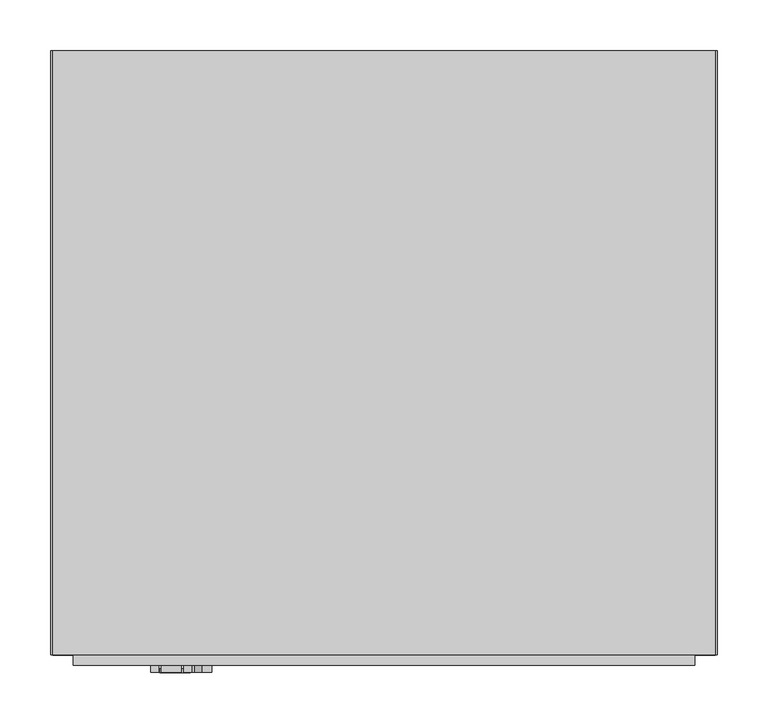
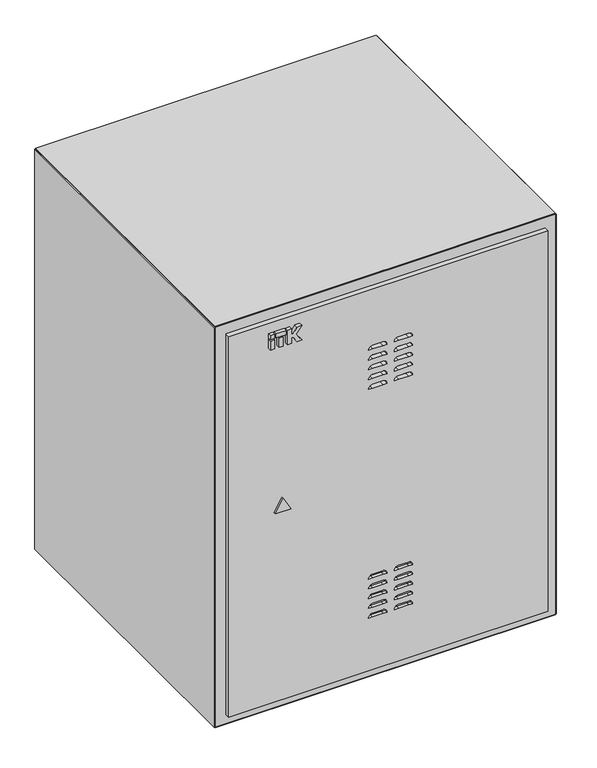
"""IFC4 building model written with IfcOpenShell, lengths in millimetres: proxy geometry, Шкафы ITK серия O_навесной : LO35-12U66-M55."""

from ifc_helpers import new_model, si_unit, frame, origin, origin_with_axes, place, context, project, spatial, polyline, circle_curve, outline, extrude, source, transform, mapped, element, save
from ifc_brep_helpers import plane_surface, revolved_surface, advanced_brep


def electrical_fixtures_9127867a(model_context):
    return source(origin(), model_context, "Body", "SolidModel", [
        extrude(outline(polyline([(-220.9746193, -313.5), (-229.197592, -313.5), (-229.197592, -306.5), (-220.9746193, -306.5), (-220.9746193, -313.5)])), frame((0.0, 0.0, 738.0), z_axis=(0.0, 0.0, 1.0), x_axis=(1.0, 0.0, 0.0)), (0.0, 0.0, 1.0), 18.8087618),
        extrude(outline(polyline([(-204.9605777, -313.5), (-212.7053315, -313.5), (-212.7053315, -306.5), (-204.9605777, -306.5), (-204.9605777, -313.5)])), frame((0.0, 0.0, 738.0), z_axis=(0.0, 0.0, 1.0), x_axis=(1.0, 0.0, 0.0)), (0.0, 0.0, 1.0), 18.8087618),
        extrude(outline(polyline([(-220.9746193, -313.5), (-229.197592, -313.5), (-229.197592, -306.5), (-220.9746193, -306.5), (-220.9746193, -313.5)])), frame((0.0, 0.0, 759.4305892), z_axis=(0.0, 0.0, 1.0), x_axis=(1.0, 0.0, 0.0)), (0.0, 0.0, 1.0), 7.9794747),
        extrude(outline(polyline([(738.0, -196.5184175), (738.0, -188.7669278), (749.0271455, -188.7669278), (749.0271455, -185.8031229), (738.0, -178.6420108), (738.0, -169.197592), (752.7278745, -179.8980192), (767.410064, -169.197592), (767.410064, -178.6420108), (756.3829184, -185.8031229), (756.3829184, -188.7669278), (767.410064, -188.7669278), (767.410064, -196.5184175), (738.0, -196.5184175)])), frame((0.0, -313.5, 0.0), z_axis=(0.0, 1.0, 0.0), x_axis=(0.0, 0.0, 1.0)), (0.0, 0.0, 1.0), 7.0),
        extrude(outline(polyline([(-199.0851324, -313.5), (-218.5807768, -313.5), (-218.5807768, -306.5), (-199.0851324, -306.5), (-199.0851324, -313.5)])), frame((0.0, 0.0, 759.4305892), z_axis=(0.0, 0.0, 1.0), x_axis=(1.0, 0.0, 0.0)), (0.0, 0.0, 1.0), 7.9794747),
        extrude(outline(polyline([(405.0, -190.0), (430.9807621, -205.0), (405.0, -220.0), (405.0, -190.0)])), frame((0.0, -313.8761985, 0.0), z_axis=(0.0, 1.0, 0.0), x_axis=(0.0, 0.0, 1.0)), (0.0, 0.0, 1.0), 3.8761985),
        extrude(outline(polyline([(325.0, -294.5), (325.0, -296.5), (-325.0, -296.5), (-325.0, -294.5), (325.0, -294.5)])), frame((0.0, 0.0, 1.0), z_axis=(0.0, 0.0, 1.0), x_axis=(1.0, 0.0, 0.0)), (0.0, 0.0, 1.0), 807.0),
        advanced_brep(
        [(305.0, -306.5, 788.0), (305.0, -296.5, 788.0), (-305.0, -296.5, 788.0), (-305.0, -306.5, 788.0), (305.0, -306.5, 20.0), (-305.0, -306.5, 20.0), (-305.0, -296.5, 20.0), (305.0, -296.5, 20.0), (-10.2651389, -306.5, 588.0), (-29.9451403, -306.5, 588.0), (-37.5671705, -306.5, 588.0), (-29.945139, -306.5, 595.6220297), (-10.2651389, -306.5, 595.6220297), (-2.6431076, -306.5, 588.0), (19.254861, -306.5, 595.6220297), (38.9348608, -306.5, 595.6220297), (46.5568923, -306.5, 588.0), (38.93486, -306.5, 588.0), (19.2548605, -306.5, 588.0), (11.6328295, -306.5, 588.0), (19.2548609, -306.5, 674.3420292), (38.9348609, -306.5, 674.3420292), (46.5568921, -306.5, 666.719998), (38.93486, -306.5, 666.719998), (19.2548605, -306.5, 666.719998), (11.6328297, -306.5, 666.719998), (-29.9451391, -306.5, 674.3420287), (-10.2651391, -306.5, 674.3420287), (-2.6431079, -306.5, 666.7199976), (-10.2651391, -306.5, 666.7199976), (-29.9451403, -306.5, 666.7199976), (-37.5671703, -306.5, 666.7199976), (-2.6431074, -306.5, 647.0400027), (-10.2651389, -306.5, 647.0400027), (-29.9451403, -306.5, 647.0400027), (-37.5671708, -306.5, 647.0400027), (-29.9451389, -306.5, 654.6620307), (-10.2651392, -306.5, 654.6620307), (-10.2651389, -306.5, 627.3599899), (-29.9451403, -306.5, 627.3599899), (-37.5644189, -306.5, 627.3599899), (-29.9414669, -306.5, 634.9820295), (-10.2614689, -306.5, 634.9820295), (-2.6403525, -306.5, 627.3599899), (-10.2651389, -306.5, 607.6798081), (-29.9451403, -306.5, 607.6798081), (-37.5657664, -306.5, 607.6798081), (-29.942705, -306.5, 615.302777), (-10.2675726, -306.5, 615.302777), (-2.644513, -306.5, 607.6798081), (38.93486, -306.5, 607.679901), (19.2548605, -306.5, 607.679901), (11.6343857, -306.5, 607.679901), (19.2572189, -306.5, 615.3024052), (38.9285415, -306.5, 615.3024052), (46.5570341, -306.5, 607.679901), (38.93486, -306.5, 627.3598389), (19.2548605, -306.5, 627.3598389), (11.6353341, -306.5, 627.3598389), (19.2586566, -306.5, 634.9826332), (38.9246889, -306.5, 634.9826332), (46.5571211, -306.5, 627.3598389), (38.93486, -306.5, 647.0400027), (19.2548605, -306.5, 647.0400027), (11.6328292, -306.5, 647.0400027), (19.2548611, -306.5, 654.6620307), (38.9348606, -306.5, 654.6620307), (46.5568926, -306.5, 647.0400027), (-10.2651389, -306.5, 126.2175069), (-29.9451403, -306.5, 126.2175069), (-37.5671705, -306.5, 126.2175069), (-29.945139, -306.5, 133.8395366), (-10.2651389, -306.5, 133.8395366), (-2.6431076, -306.5, 126.2175069), (19.254861, -306.5, 133.8395366), (38.9348608, -306.5, 133.8395366), (46.5568923, -306.5, 126.2175069), (38.93486, -306.5, 126.2175069), (19.2548605, -306.5, 126.2175069), (11.6328295, -306.5, 126.2175069), (19.2548609, -306.5, 212.559536), (38.9348609, -306.5, 212.559536), (46.5568921, -306.5, 204.9375049), (38.93486, -306.5, 204.9375049), (19.2548605, -306.5, 204.9375049), (11.6328297, -306.5, 204.9375049), (-29.9451391, -306.5, 212.5595356), (-10.2651391, -306.5, 212.5595356), (-2.6431079, -306.5, 204.9375046), (-10.2651391, -306.5, 204.9375046), (-29.9451403, -306.5, 204.9375046), (-37.5671703, -306.5, 204.9375046), (-2.6431074, -306.5, 185.2575096), (-10.2651389, -306.5, 185.2575096), (-29.9451403, -306.5, 185.2575096), (-37.5671708, -306.5, 185.2575096), (-29.9451389, -306.5, 192.8795376), (-10.2651392, -306.5, 192.8795376), (-10.2651389, -306.5, 165.5774968), (-29.9451403, -306.5, 165.5774968), (-37.5644189, -306.5, 165.5774968), (-29.9414669, -306.5, 173.1995364), (-10.2614689, -306.5, 173.1995364), (-2.6403525, -306.5, 165.5774968), (-10.2651389, -306.5, 145.897315), (-29.9451403, -306.5, 145.897315), (-37.5657664, -306.5, 145.897315), (-29.942705, -306.5, 153.5202839), (-10.2675726, -306.5, 153.5202839), (-2.644513, -306.5, 145.897315), (38.93486, -306.5, 145.8974079), (19.2548605, -306.5, 145.8974079), (11.6343857, -306.5, 145.8974079), (19.2572189, -306.5, 153.519912), (38.9285415, -306.5, 153.519912), (46.5570341, -306.5, 145.8974079), (38.93486, -306.5, 165.5773458), (19.2548605, -306.5, 165.5773458), (11.6353341, -306.5, 165.5773458), (19.2586566, -306.5, 173.2001401), (38.9246889, -306.5, 173.2001401), (46.5571211, -306.5, 165.5773458), (38.93486, -306.5, 185.2575096), (19.2548605, -306.5, 185.2575096), (11.6328292, -306.5, 185.2575096), (19.2548611, -306.5, 192.8795376), (38.9348606, -306.5, 192.8795376), (46.5568926, -306.5, 185.2575096), (-29.9451403, -296.5, 588.0), (-10.2651389, -296.5, 588.0), (-2.6431076, -296.5, 588.0), (-10.2651389, -296.5, 595.6220297), (-29.945139, -296.5, 595.6220297), (-37.5671705, -296.5, 588.0), (38.9348608, -296.5, 595.6220297), (19.254861, -296.5, 595.6220297), (11.6328295, -296.5, 588.0), (19.2548605, -296.5, 588.0), (38.93486, -296.5, 588.0), (46.5568923, -296.5, 588.0), (38.9348609, -296.5, 674.3420292), (19.2548609, -296.5, 674.3420292), (11.6328297, -296.5, 666.719998), (19.2548605, -296.5, 666.719998), (38.93486, -296.5, 666.719998), (46.5568921, -296.5, 666.719998), (-10.2651391, -296.5, 674.3420287), (-29.9451391, -296.5, 674.3420287), (-37.5671703, -296.5, 666.7199976), (-29.9451403, -296.5, 666.7199976), (-10.2651391, -296.5, 666.7199976), (-2.6431079, -296.5, 666.7199976), (-10.2651389, -296.5, 647.0400027), (-2.6431074, -296.5, 647.0400027), (-10.2651392, -296.5, 654.6620307), (-29.9451389, -296.5, 654.6620307), (-37.5671708, -296.5, 647.0400027), (-29.9451403, -296.5, 647.0400027), (-29.9451403, -296.5, 627.3599899), (-10.2651389, -296.5, 627.3599899), (-2.6403525, -296.5, 627.3599899), (-10.2614689, -296.5, 634.9820295), (-29.9414669, -296.5, 634.9820295), (-37.5644189, -296.5, 627.3599899), (-29.9451403, -296.5, 607.6798081), (-10.2651389, -296.5, 607.6798081), (-2.644513, -296.5, 607.6798081), (-10.2675726, -296.5, 615.302777), (-29.942705, -296.5, 615.302777), (-37.5657664, -296.5, 607.6798081), (19.2548605, -296.5, 607.679901), (38.93486, -296.5, 607.679901), (46.5570341, -296.5, 607.679901), (38.9285415, -296.5, 615.3024052), (19.2572189, -296.5, 615.3024052), (11.6343857, -296.5, 607.679901), (19.2548605, -296.5, 627.3598389), (38.93486, -296.5, 627.3598389), (46.5571211, -296.5, 627.3598389), (38.9246889, -296.5, 634.9826332), (19.2586566, -296.5, 634.9826332), (11.6353341, -296.5, 627.3598389), (19.2548605, -296.5, 647.0400027), (38.93486, -296.5, 647.0400027), (46.5568926, -296.5, 647.0400027), (38.9348606, -296.5, 654.6620307), (19.2548611, -296.5, 654.6620307), (11.6328292, -296.5, 647.0400027), (-29.9451403, -300.0, 126.2175069), (-10.2651389, -300.0, 126.2175069), (-2.6431076, -300.0, 126.2175069), (-10.2651389, -300.0, 133.8395366), (-29.945139, -300.0, 133.8395366), (-37.5671705, -300.0, 126.2175069), (38.9348608, -300.0, 133.8395366), (19.254861, -300.0, 133.8395366), (11.6328295, -300.0, 126.2175069), (19.2548605, -300.0, 126.2175069), (38.93486, -300.0, 126.2175069), (46.5568923, -300.0, 126.2175069), (38.9348609, -300.0, 212.559536), (19.2548609, -300.0, 212.559536), (11.6328297, -300.0, 204.9375049), (19.2548605, -300.0, 204.9375049), (38.93486, -300.0, 204.9375049), (46.5568921, -300.0, 204.9375049), (-10.2651391, -300.0, 212.5595356), (-29.9451391, -300.0, 212.5595356), (-37.5671703, -300.0, 204.9375046), (-29.9451403, -300.0, 204.9375046), (-10.2651391, -300.0, 204.9375046), (-2.6431079, -300.0, 204.9375046), (-10.2651389, -300.0, 185.2575096), (-2.6431074, -300.0, 185.2575096), (-10.2651392, -300.0, 192.8795376), (-29.9451389, -300.0, 192.8795376), (-37.5671708, -300.0, 185.2575096), (-29.9451403, -300.0, 185.2575096), (-29.9451403, -300.0, 165.5774968), (-10.2651389, -300.0, 165.5774968), (-2.6403525, -300.0, 165.5774968), (-10.2614689, -300.0, 173.1995364), (-29.9414669, -300.0, 173.1995364), (-37.5644189, -300.0, 165.5774968), (-29.9451403, -300.0, 145.897315), (-10.2651389, -300.0, 145.897315), (-2.644513, -300.0, 145.897315), (-10.2675726, -300.0, 153.5202839), (-29.942705, -300.0, 153.5202839), (-37.5657664, -300.0, 145.897315), (19.2548605, -300.0, 145.8974079), (38.93486, -300.0, 145.8974079), (46.5570341, -300.0, 145.8974079), (38.9285415, -300.0, 153.519912), (19.2572189, -300.0, 153.519912), (11.6343857, -300.0, 145.8974079), (19.2548605, -300.0, 165.5773458), (38.93486, -300.0, 165.5773458), (46.5571211, -300.0, 165.5773458), (38.9246889, -300.0, 173.2001401), (19.2586566, -300.0, 173.2001401), (11.6353341, -300.0, 165.5773458), (19.2548605, -300.0, 185.2575096), (38.93486, -300.0, 185.2575096), (46.5568926, -300.0, 185.2575096), (38.9348606, -300.0, 192.8795376), (19.2548611, -300.0, 192.8795376), (11.6328292, -300.0, 185.2575096)],
        [
            (0, 1),
            (1, 2),
            (2, 3),
            (3, 0),
            (4, 5),
            (5, 6),
            (6, 7),
            (7, 4),
            (3, 5),
            (4, 0),
            (8, 9),
            (9, 10),
            (10, 11, circle_curve(frame((-29.945139, -306.5, 587.9999983), z_axis=(0.0, 1.0, 0.0), x_axis=(1.0, 0.0, 0.0)), 7.6220315)),
            (11, 12),
            (12, 13, circle_curve(frame((-10.2651389, -306.5, 587.9999985), z_axis=(0.0, 1.0, 0.0), x_axis=(1.0, 0.0, 0.0)), 7.6220312)),
            (13, 8),
            (14, 15),
            (15, 16, circle_curve(frame((38.9348608, -306.5, 587.9999982), z_axis=(0.0, 1.0, 0.0), x_axis=(1.0, 0.0, 0.0)), 7.6220315)),
            (16, 17),
            (17, 18),
            (18, 19),
            (19, 14, circle_curve(frame((19.254861, -306.5, 587.9999982), z_axis=(0.0, 1.0, 0.0), x_axis=(1.0, 0.0, 0.0)), 7.6220315)),
            (20, 21),
            (21, 22, circle_curve(frame((38.9348609, -306.5, 666.719998), z_axis=(0.0, 1.0, 0.0), x_axis=(1.0, 0.0, 0.0)), 7.6220312)),
            (22, 23),
            (23, 24),
            (24, 25),
            (25, 20, circle_curve(frame((19.2548609, -306.5, 666.719998), z_axis=(0.0, 1.0, 0.0), x_axis=(1.0, 0.0, 0.0)), 7.6220312)),
            (26, 27),
            (27, 28, circle_curve(frame((-10.2651391, -306.5, 666.7199976), z_axis=(0.0, 1.0, 0.0), x_axis=(1.0, 0.0, 0.0)), 7.6220312)),
            (28, 29),
            (29, 30),
            (30, 31),
            (31, 26, circle_curve(frame((-29.9451391, -306.5, 666.7199976), z_axis=(0.0, 1.0, 0.0), x_axis=(1.0, 0.0, 0.0)), 7.6220312)),
            (32, 33),
            (33, 34),
            (34, 35),
            (35, 36, circle_curve(frame((-29.9451389, -306.5, 647.0399988), z_axis=(0.0, 1.0, 0.0), x_axis=(1.0, 0.0, 0.0)), 7.6220319)),
            (36, 37),
            (37, 32, circle_curve(frame((-10.2651392, -306.5, 647.0399988), z_axis=(0.0, 1.0, 0.0), x_axis=(1.0, 0.0, 0.0)), 7.6220319)),
            (38, 39),
            (39, 40),
            (40, 41, circle_curve(frame((-29.9414669, -306.5, 627.3590775), z_axis=(0.0, 1.0, 0.0), x_axis=(1.0, 0.0, 0.0)), 7.622952)),
            (41, 42),
            (42, 43, circle_curve(frame((-10.2614689, -306.5, 627.360913), z_axis=(0.0, 1.0, 0.0), x_axis=(1.0, 0.0, 0.0)), 7.6211164)),
            (43, 38),
            (44, 45),
            (45, 46),
            (46, 47, circle_curve(frame((-29.942705, -306.5, 607.6797156), z_axis=(0.0, 1.0, 0.0), x_axis=(1.0, 0.0, 0.0)), 7.6230614)),
            (47, 48),
            (48, 49, circle_curve(frame((-10.2675726, -306.5, 607.6797174), z_axis=(0.0, 1.0, 0.0), x_axis=(1.0, 0.0, 0.0)), 7.6230597)),
            (49, 44),
            (50, 51),
            (51, 52),
            (52, 53, circle_curve(frame((19.2572189, -306.5, 607.6795719), z_axis=(0.0, 1.0, 0.0), x_axis=(1.0, 0.0, 0.0)), 7.6228332)),
            (53, 54),
            (54, 55, circle_curve(frame((38.9347662, -306.5, 607.6801399), z_axis=(0.0, 1.0, 0.0), x_axis=(1.0, 0.0, 0.0)), 7.6222678)),
            (55, 50),
            (56, 57),
            (57, 58),
            (58, 59, circle_curve(frame((19.2586566, -306.5, 627.3593107), z_axis=(0.0, 1.0, 0.0), x_axis=(1.0, 0.0, 0.0)), 7.6233225)),
            (59, 60),
            (60, 61, circle_curve(frame((38.9347082, -306.5, 627.3602269), z_axis=(0.0, 1.0, 0.0), x_axis=(1.0, 0.0, 0.0)), 7.6224129)),
            (61, 56),
            (62, 63),
            (63, 64),
            (64, 65, circle_curve(frame((19.2548611, -306.5, 647.0399987), z_axis=(0.0, 1.0, 0.0), x_axis=(1.0, 0.0, 0.0)), 7.6220319)),
            (65, 66),
            (66, 67, circle_curve(frame((38.9348606, -306.5, 647.0399987), z_axis=(0.0, 1.0, 0.0), x_axis=(1.0, 0.0, 0.0)), 7.6220319)),
            (67, 62),
            (68, 69),
            (69, 70),
            (70, 71, circle_curve(frame((-29.945139, -306.5, 126.2175051), z_axis=(0.0, 1.0, 0.0), x_axis=(1.0, 0.0, 0.0)), 7.6220315)),
            (71, 72),
            (72, 73, circle_curve(frame((-10.2651389, -306.5, 126.2175054), z_axis=(0.0, 1.0, 0.0), x_axis=(1.0, 0.0, 0.0)), 7.6220312)),
            (73, 68),
            (74, 75),
            (75, 76, circle_curve(frame((38.9348608, -306.5, 126.2175051), z_axis=(0.0, 1.0, 0.0), x_axis=(1.0, 0.0, 0.0)), 7.6220315)),
            (76, 77),
            (77, 78),
            (78, 79),
            (79, 74, circle_curve(frame((19.254861, -306.5, 126.2175051), z_axis=(0.0, 1.0, 0.0), x_axis=(1.0, 0.0, 0.0)), 7.6220315)),
            (80, 81),
            (81, 82, circle_curve(frame((38.9348609, -306.5, 204.9375049), z_axis=(0.0, 1.0, 0.0), x_axis=(1.0, 0.0, 0.0)), 7.6220312)),
            (82, 83),
            (83, 84),
            (84, 85),
            (85, 80, circle_curve(frame((19.2548609, -306.5, 204.9375049), z_axis=(0.0, 1.0, 0.0), x_axis=(1.0, 0.0, 0.0)), 7.6220312)),
            (86, 87),
            (87, 88, circle_curve(frame((-10.2651391, -306.5, 204.9375044), z_axis=(0.0, 1.0, 0.0), x_axis=(1.0, 0.0, 0.0)), 7.6220312)),
            (88, 89),
            (89, 90),
            (90, 91),
            (91, 86, circle_curve(frame((-29.9451391, -306.5, 204.9375044), z_axis=(0.0, 1.0, 0.0), x_axis=(1.0, 0.0, 0.0)), 7.6220312)),
            (92, 93),
            (93, 94),
            (94, 95),
            (95, 96, circle_curve(frame((-29.9451389, -306.5, 185.2575057), z_axis=(0.0, 1.0, 0.0), x_axis=(1.0, 0.0, 0.0)), 7.6220319)),
            (96, 97),
            (97, 92, circle_curve(frame((-10.2651392, -306.5, 185.2575057), z_axis=(0.0, 1.0, 0.0), x_axis=(1.0, 0.0, 0.0)), 7.6220319)),
            (98, 99),
            (99, 100),
            (100, 101, circle_curve(frame((-29.9414669, -306.5, 165.5765843), z_axis=(0.0, 1.0, 0.0), x_axis=(1.0, 0.0, 0.0)), 7.622952)),
            (101, 102),
            (102, 103, circle_curve(frame((-10.2614689, -306.5, 165.5784199), z_axis=(0.0, 1.0, 0.0), x_axis=(1.0, 0.0, 0.0)), 7.6211164)),
            (103, 98),
            (104, 105),
            (105, 106),
            (106, 107, circle_curve(frame((-29.942705, -306.5, 145.8972225), z_axis=(0.0, 1.0, 0.0), x_axis=(1.0, 0.0, 0.0)), 7.6230614)),
            (107, 108),
            (108, 109, circle_curve(frame((-10.2675726, -306.5, 145.8972242), z_axis=(0.0, 1.0, 0.0), x_axis=(1.0, 0.0, 0.0)), 7.6230597)),
            (109, 104),
            (110, 111),
            (111, 112),
            (112, 113, circle_curve(frame((19.2572189, -306.5, 145.8970788), z_axis=(0.0, 1.0, 0.0), x_axis=(1.0, 0.0, 0.0)), 7.6228332)),
            (113, 114),
            (114, 115, circle_curve(frame((38.9347662, -306.5, 145.8976467), z_axis=(0.0, 1.0, 0.0), x_axis=(1.0, 0.0, 0.0)), 7.6222678)),
            (115, 110),
            (116, 117),
            (117, 118),
            (118, 119, circle_curve(frame((19.2586566, -306.5, 165.5768176), z_axis=(0.0, 1.0, 0.0), x_axis=(1.0, 0.0, 0.0)), 7.6233225)),
            (119, 120),
            (120, 121, circle_curve(frame((38.9347082, -306.5, 165.5777338), z_axis=(0.0, 1.0, 0.0), x_axis=(1.0, 0.0, 0.0)), 7.6224129)),
            (121, 116),
            (122, 123),
            (123, 124),
            (124, 125, circle_curve(frame((19.2548611, -306.5, 185.2575056), z_axis=(0.0, 1.0, 0.0), x_axis=(1.0, 0.0, 0.0)), 7.6220319)),
            (125, 126),
            (126, 127, circle_curve(frame((38.9348606, -306.5, 185.2575056), z_axis=(0.0, 1.0, 0.0), x_axis=(1.0, 0.0, 0.0)), 7.6220319)),
            (127, 122),
            (2, 6),
            (7, 1),
            (128, 129),
            (129, 130),
            (130, 131, circle_curve(frame((-10.2651389, -296.5, 587.9999985), z_axis=(0.0, -1.0, 0.0), x_axis=(1.0, 0.0, 0.0)), 7.6220312)),
            (131, 132),
            (132, 133, circle_curve(frame((-29.945139, -296.5, 587.9999983), z_axis=(0.0, -1.0, 0.0), x_axis=(1.0, 0.0, 0.0)), 7.6220315)),
            (133, 128),
            (134, 135),
            (135, 136, circle_curve(frame((19.254861, -296.5, 587.9999982), z_axis=(0.0, -1.0, 0.0), x_axis=(1.0, 0.0, 0.0)), 7.6220315)),
            (136, 137),
            (137, 138),
            (138, 139),
            (139, 134, circle_curve(frame((38.9348608, -296.5, 587.9999982), z_axis=(0.0, -1.0, 0.0), x_axis=(1.0, 0.0, 0.0)), 7.6220315)),
            (140, 141),
            (141, 142, circle_curve(frame((19.2548609, -296.5, 666.719998), z_axis=(0.0, -1.0, 0.0), x_axis=(1.0, 0.0, 0.0)), 7.6220312)),
            (142, 143),
            (143, 144),
            (144, 145),
            (145, 140, circle_curve(frame((38.9348609, -296.5, 666.719998), z_axis=(0.0, -1.0, 0.0), x_axis=(1.0, 0.0, 0.0)), 7.6220312)),
            (146, 147),
            (147, 148, circle_curve(frame((-29.9451391, -296.5, 666.7199976), z_axis=(0.0, -1.0, 0.0), x_axis=(1.0, 0.0, 0.0)), 7.6220312)),
            (148, 149),
            (149, 150),
            (150, 151),
            (151, 146, circle_curve(frame((-10.2651391, -296.5, 666.7199976), z_axis=(0.0, -1.0, 0.0), x_axis=(1.0, 0.0, 0.0)), 7.6220312)),
            (152, 153),
            (153, 154, circle_curve(frame((-10.2651392, -296.5, 647.0399988), z_axis=(0.0, -1.0, 0.0), x_axis=(1.0, 0.0, 0.0)), 7.6220319)),
            (154, 155),
            (155, 156, circle_curve(frame((-29.9451389, -296.5, 647.0399988), z_axis=(0.0, -1.0, 0.0), x_axis=(1.0, 0.0, 0.0)), 7.6220319)),
            (156, 157),
            (157, 152),
            (158, 159),
            (159, 160),
            (160, 161, circle_curve(frame((-10.2614689, -296.5, 627.360913), z_axis=(0.0, -1.0, 0.0), x_axis=(1.0, 0.0, 0.0)), 7.6211164)),
            (161, 162),
            (162, 163, circle_curve(frame((-29.9414669, -296.5, 627.3590775), z_axis=(0.0, -1.0, 0.0), x_axis=(1.0, 0.0, 0.0)), 7.622952)),
            (163, 158),
            (164, 165),
            (165, 166),
            (166, 167, circle_curve(frame((-10.2675726, -296.5, 607.6797174), z_axis=(0.0, -1.0, 0.0), x_axis=(1.0, 0.0, 0.0)), 7.6230597)),
            (167, 168),
            (168, 169, circle_curve(frame((-29.942705, -296.5, 607.6797156), z_axis=(0.0, -1.0, 0.0), x_axis=(1.0, 0.0, 0.0)), 7.6230614)),
            (169, 164),
            (170, 171),
            (171, 172),
            (172, 173, circle_curve(frame((38.9347662, -296.5, 607.6801399), z_axis=(0.0, -1.0, 0.0), x_axis=(1.0, 0.0, 0.0)), 7.6222678)),
            (173, 174),
            (174, 175, circle_curve(frame((19.2572189, -296.5, 607.6795719), z_axis=(0.0, -1.0, 0.0), x_axis=(1.0, 0.0, 0.0)), 7.6228332)),
            (175, 170),
            (176, 177),
            (177, 178),
            (178, 179, circle_curve(frame((38.9347082, -296.5, 627.3602269), z_axis=(0.0, -1.0, 0.0), x_axis=(1.0, 0.0, 0.0)), 7.6224129)),
            (179, 180),
            (180, 181, circle_curve(frame((19.2586566, -296.5, 627.3593107), z_axis=(0.0, -1.0, 0.0), x_axis=(1.0, 0.0, 0.0)), 7.6233225)),
            (181, 176),
            (182, 183),
            (183, 184),
            (184, 185, circle_curve(frame((38.9348606, -296.5, 647.0399987), z_axis=(0.0, -1.0, 0.0), x_axis=(1.0, 0.0, 0.0)), 7.6220319)),
            (185, 186),
            (186, 187, circle_curve(frame((19.2548611, -296.5, 647.0399987), z_axis=(0.0, -1.0, 0.0), x_axis=(1.0, 0.0, 0.0)), 7.6220319)),
            (187, 182),
            (8, 129),
            (128, 9),
            (13, 130),
            (12, 131),
            (11, 132),
            (10, 133),
            (14, 135),
            (134, 15),
            (19, 136),
            (18, 137),
            (17, 138),
            (16, 139),
            (20, 141),
            (140, 21),
            (25, 142),
            (24, 143),
            (23, 144),
            (22, 145),
            (26, 147),
            (146, 27),
            (31, 148),
            (30, 149),
            (29, 150),
            (28, 151),
            (32, 153),
            (152, 33),
            (37, 154),
            (36, 155),
            (35, 156),
            (34, 157),
            (38, 159),
            (158, 39),
            (43, 160),
            (42, 161),
            (41, 162),
            (40, 163),
            (44, 165),
            (164, 45),
            (49, 166),
            (48, 167),
            (47, 168),
            (46, 169),
            (50, 171),
            (170, 51),
            (55, 172),
            (54, 173),
            (53, 174),
            (52, 175),
            (56, 177),
            (176, 57),
            (61, 178),
            (60, 179),
            (59, 180),
            (58, 181),
            (62, 183),
            (182, 63),
            (67, 184),
            (66, 185),
            (65, 186),
            (64, 187),
            (188, 189),
            (189, 190),
            (190, 191, circle_curve(frame((-10.2651389, -300.0, 126.2175054), z_axis=(0.0, -1.0, 0.0), x_axis=(1.0, 0.0, 0.0)), 7.6220312)),
            (191, 192),
            (192, 193, circle_curve(frame((-29.945139, -300.0, 126.2175051), z_axis=(0.0, -1.0, 0.0), x_axis=(1.0, 0.0, 0.0)), 7.6220315)),
            (193, 188),
            (194, 195),
            (195, 196, circle_curve(frame((19.254861, -300.0, 126.2175051), z_axis=(0.0, -1.0, 0.0), x_axis=(1.0, 0.0, 0.0)), 7.6220315)),
            (196, 197),
            (197, 198),
            (198, 199),
            (199, 194, circle_curve(frame((38.9348608, -300.0, 126.2175051), z_axis=(0.0, -1.0, 0.0), x_axis=(1.0, 0.0, 0.0)), 7.6220315)),
            (200, 201),
            (201, 202, circle_curve(frame((19.2548609, -300.0, 204.9375049), z_axis=(0.0, -1.0, 0.0), x_axis=(1.0, 0.0, 0.0)), 7.6220312)),
            (202, 203),
            (203, 204),
            (204, 205),
            (205, 200, circle_curve(frame((38.9348609, -300.0, 204.9375049), z_axis=(0.0, -1.0, 0.0), x_axis=(1.0, 0.0, 0.0)), 7.6220312)),
            (206, 207),
            (207, 208, circle_curve(frame((-29.9451391, -300.0, 204.9375044), z_axis=(0.0, -1.0, 0.0), x_axis=(1.0, 0.0, 0.0)), 7.6220312)),
            (208, 209),
            (209, 210),
            (210, 211),
            (211, 206, circle_curve(frame((-10.2651391, -300.0, 204.9375044), z_axis=(0.0, -1.0, 0.0), x_axis=(1.0, 0.0, 0.0)), 7.6220312)),
            (212, 213),
            (213, 214, circle_curve(frame((-10.2651392, -300.0, 185.2575057), z_axis=(0.0, -1.0, 0.0), x_axis=(1.0, 0.0, 0.0)), 7.6220319)),
            (214, 215),
            (215, 216, circle_curve(frame((-29.9451389, -300.0, 185.2575057), z_axis=(0.0, -1.0, 0.0), x_axis=(1.0, 0.0, 0.0)), 7.6220319)),
            (216, 217),
            (217, 212),
            (218, 219),
            (219, 220),
            (220, 221, circle_curve(frame((-10.2614689, -300.0, 165.5784199), z_axis=(0.0, -1.0, 0.0), x_axis=(1.0, 0.0, 0.0)), 7.6211164)),
            (221, 222),
            (222, 223, circle_curve(frame((-29.9414669, -300.0, 165.5765843), z_axis=(0.0, -1.0, 0.0), x_axis=(1.0, 0.0, 0.0)), 7.622952)),
            (223, 218),
            (224, 225),
            (225, 226),
            (226, 227, circle_curve(frame((-10.2675726, -300.0, 145.8972242), z_axis=(0.0, -1.0, 0.0), x_axis=(1.0, 0.0, 0.0)), 7.6230597)),
            (227, 228),
            (228, 229, circle_curve(frame((-29.942705, -300.0, 145.8972225), z_axis=(0.0, -1.0, 0.0), x_axis=(1.0, 0.0, 0.0)), 7.6230614)),
            (229, 224),
            (230, 231),
            (231, 232),
            (232, 233, circle_curve(frame((38.9347662, -300.0, 145.8976467), z_axis=(0.0, -1.0, 0.0), x_axis=(1.0, 0.0, 0.0)), 7.6222678)),
            (233, 234),
            (234, 235, circle_curve(frame((19.2572189, -300.0, 145.8970788), z_axis=(0.0, -1.0, 0.0), x_axis=(1.0, 0.0, 0.0)), 7.6228332)),
            (235, 230),
            (236, 237),
            (237, 238),
            (238, 239, circle_curve(frame((38.9347082, -300.0, 165.5777338), z_axis=(0.0, -1.0, 0.0), x_axis=(1.0, 0.0, 0.0)), 7.6224129)),
            (239, 240),
            (240, 241, circle_curve(frame((19.2586566, -300.0, 165.5768176), z_axis=(0.0, -1.0, 0.0), x_axis=(1.0, 0.0, 0.0)), 7.6233225)),
            (241, 236),
            (242, 243),
            (243, 244),
            (244, 245, circle_curve(frame((38.9348606, -300.0, 185.2575056), z_axis=(0.0, -1.0, 0.0), x_axis=(1.0, 0.0, 0.0)), 7.6220319)),
            (245, 246),
            (246, 247, circle_curve(frame((19.2548611, -300.0, 185.2575056), z_axis=(0.0, -1.0, 0.0), x_axis=(1.0, 0.0, 0.0)), 7.6220319)),
            (247, 242),
            (188, 69),
            (68, 189),
            (73, 190),
            (72, 191),
            (71, 192),
            (70, 193),
            (194, 75),
            (74, 195),
            (79, 196),
            (78, 197),
            (77, 198),
            (76, 199),
            (200, 81),
            (80, 201),
            (85, 202),
            (84, 203),
            (83, 204),
            (82, 205),
            (206, 87),
            (86, 207),
            (91, 208),
            (90, 209),
            (89, 210),
            (88, 211),
            (212, 93),
            (92, 213),
            (97, 214),
            (96, 215),
            (95, 216),
            (94, 217),
            (218, 99),
            (98, 219),
            (103, 220),
            (102, 221),
            (101, 222),
            (100, 223),
            (224, 105),
            (104, 225),
            (109, 226),
            (108, 227),
            (107, 228),
            (106, 229),
            (230, 111),
            (110, 231),
            (115, 232),
            (114, 233),
            (113, 234),
            (112, 235),
            (236, 117),
            (116, 237),
            (121, 238),
            (120, 239),
            (119, 240),
            (118, 241),
            (242, 123),
            (122, 243),
            (127, 244),
            (126, 245),
            (125, 246),
            (124, 247),
        ],
        [
            plane_surface(frame((305.0, -306.5, 788.0), z_axis=(0.0, 0.0, 1.0), x_axis=(0.0, 1.0, 0.0))),
            plane_surface(frame((305.0, -306.5, 20.0), z_axis=(0.0, 0.0, -1.0), x_axis=(0.0, -1.0, 0.0))),
            plane_surface(frame((-305.0, -306.5, 788.0), z_axis=(0.0, -1.0, 0.0), x_axis=(0.0, 0.0, -1.0))),
            plane_surface(frame((-305.0, -296.5, 788.0), z_axis=(-1.0, 0.0, 0.0), x_axis=(0.0, 0.0, -1.0))),
            plane_surface(frame((305.0, -306.5, 788.0), z_axis=(1.0, 0.0, 0.0), x_axis=(0.0, 0.0, -1.0))),
            plane_surface(frame((305.0, -296.5, 788.0), z_axis=(0.0, 1.0, 0.0), x_axis=(0.0, 0.0, -1.0))),
            plane_surface(frame((-29.9451403, -306.5, 588.0), z_axis=(0.0, 0.0, 1.0), x_axis=(0.0, 1.0, 0.0))),
            plane_surface(frame((-10.2651389, -306.5, 588.0), z_axis=(0.0, 0.0, 1.0), x_axis=(0.0, 1.0, 0.0))),
            revolved_surface(polyline([(-2.6431077, -306.5, 587.9999985), (-2.6431077, -296.5, 587.9999985)]), (-10.2651389, -296.5, 587.9999985), (0.0, -1.0, 0.0)),
            plane_surface(frame((-10.2651389, -306.5, 595.6220297), z_axis=(0.0, 0.0, -1.0), x_axis=(0.0, 1.0, 0.0))),
            revolved_surface(polyline([(-22.3231075, -306.5, 587.9999983), (-22.3231075, -296.5, 587.9999983)]), (-29.945139, -296.5, 587.9999983), (0.0, -1.0, 0.0)),
            plane_surface(frame((-37.5671705, -306.5, 588.0), z_axis=(0.0, 0.0, 1.0), x_axis=(0.0, 1.0, 0.0))),
            plane_surface(frame((38.9348608, -306.5, 595.6220297), z_axis=(0.0, 0.0, -1.0), x_axis=(0.0, 1.0, 0.0))),
            revolved_surface(polyline([(26.876892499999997, -306.5, 587.9999982), (26.876892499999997, -296.5, 587.9999982)]), (19.254861, 0.0, 587.9999982), (0.0, -1.0, 0.0)),
            plane_surface(frame((11.6328295, -306.5, 588.0), z_axis=(0.0, 0.0, 1.0), x_axis=(0.0, 1.0, 0.0))),
            plane_surface(frame((19.2548605, -306.5, 588.0), z_axis=(0.0, 0.0, 1.0), x_axis=(0.0, 1.0, 0.0))),
            plane_surface(frame((38.93486, -306.5, 588.0), z_axis=(0.0, 0.0, 1.0), x_axis=(0.0, 1.0, 0.0))),
            revolved_surface(polyline([(46.5568923, -306.5, 587.9999982), (46.5568923, -296.5, 587.9999982)]), (38.9348608, 0.0, 587.9999982), (0.0, -1.0, 0.0)),
            plane_surface(frame((38.9348609, -306.5, 674.3420292), z_axis=(0.0, 0.0, -1.0), x_axis=(0.0, 1.0, 0.0))),
            revolved_surface(polyline([(26.8768921, -306.5, 666.719998), (26.8768921, -296.5, 666.719998)]), (19.2548609, 0.0, 666.719998), (0.0, -1.0, 0.0)),
            plane_surface(frame((11.6328297, -306.5, 666.719998), z_axis=(0.0, 0.0, 1.0), x_axis=(0.0, 1.0, 0.0))),
            plane_surface(frame((19.2548605, -306.5, 666.719998), z_axis=(0.0, 0.0, 1.0), x_axis=(0.0, 1.0, 0.0))),
            plane_surface(frame((38.93486, -306.5, 666.719998), z_axis=(0.0, 0.0, 1.0), x_axis=(0.0, 1.0, 0.0))),
            revolved_surface(polyline([(46.5568921, -306.5, 666.719998), (46.5568921, -296.5, 666.719998)]), (38.9348609, 0.0, 666.719998), (0.0, -1.0, 0.0)),
            plane_surface(frame((-10.2651391, -306.5, 674.3420287), z_axis=(0.0, 0.0, -1.0), x_axis=(0.0, 1.0, 0.0))),
            revolved_surface(polyline([(-22.323107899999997, -306.5, 666.7199976), (-22.323107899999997, -296.5, 666.7199976)]), (-29.9451391, 0.0, 666.7199976), (0.0, -1.0, 0.0)),
            plane_surface(frame((-37.5671703, -306.5, 666.7199976), z_axis=(0.0, 0.0, 1.0), x_axis=(0.0, 1.0, 0.0))),
            plane_surface(frame((-29.9451403, -306.5, 666.7199976), z_axis=(0.0, 0.0, 1.0), x_axis=(0.0, 1.0, 0.0))),
            plane_surface(frame((-10.2651391, -306.5, 666.7199976), z_axis=(0.0, 0.0, 1.0), x_axis=(0.0, 1.0, 0.0))),
            revolved_surface(polyline([(-2.6431079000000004, -306.5, 666.7199976), (-2.6431079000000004, -296.5, 666.7199976)]), (-10.2651391, 0.0, 666.7199976), (0.0, -1.0, 0.0)),
            plane_surface(frame((-10.2651389, -306.5, 647.0400027), z_axis=(0.0, 0.0, 1.0), x_axis=(0.0, 1.0, 0.0))),
            revolved_surface(polyline([(-2.6431073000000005, -306.5, 647.0399988), (-2.6431073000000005, -296.5, 647.0399988)]), (-10.2651392, 0.0, 647.0399988), (0.0, -1.0, 0.0)),
            plane_surface(frame((-10.2651392, -306.5, 654.6620307), z_axis=(0.0, 0.0, -1.0), x_axis=(0.0, 1.0, 0.0))),
            revolved_surface(polyline([(-22.323107, -306.5, 647.0399988), (-22.323107, -296.5, 647.0399988)]), (-29.9451389, 0.0, 647.0399988), (0.0, -1.0, 0.0)),
            plane_surface(frame((-37.5671708, -306.5, 647.0400027), z_axis=(0.0, 0.0, 1.0), x_axis=(0.0, 1.0, 0.0))),
            plane_surface(frame((-29.9451403, -306.5, 647.0400027), z_axis=(0.0, 0.0, 1.0), x_axis=(0.0, 1.0, 0.0))),
            plane_surface(frame((-29.9451403, -306.5, 627.3599899), z_axis=(0.0, 0.0, 1.0), x_axis=(0.0, 1.0, 0.0))),
            plane_surface(frame((-10.2651389, -306.5, 627.3599899), z_axis=(0.0, 0.0, 1.0), x_axis=(0.0, 1.0, 0.0))),
            revolved_surface(polyline([(-2.6403525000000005, -306.5, 627.360913), (-2.6403525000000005, -296.5, 627.360913)]), (-10.2614689, 0.0, 627.360913), (0.0, -1.0, 0.0)),
            plane_surface(frame((-10.2614689, -306.5, 634.9820295), z_axis=(0.0, 0.0, -1.0), x_axis=(0.0, 1.0, 0.0))),
            revolved_surface(polyline([(-22.318514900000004, -306.5, 627.3590775), (-22.318514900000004, -296.5, 627.3590775)]), (-29.9414669, 0.0, 627.3590775), (0.0, -1.0, 0.0)),
            plane_surface(frame((-37.5644189, -306.5, 627.3599899), z_axis=(0.0, 0.0, 1.0), x_axis=(0.0, 1.0, 0.0))),
            plane_surface(frame((-29.9451403, -306.5, 607.6798081), z_axis=(0.0, 0.0, 1.0), x_axis=(0.0, 1.0, 0.0))),
            plane_surface(frame((-10.2651389, -306.5, 607.6798081), z_axis=(0.0, 0.0, 1.0), x_axis=(0.0, 1.0, 0.0))),
            revolved_surface(polyline([(-2.6445128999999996, -306.5, 607.6797174), (-2.6445128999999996, -296.5, 607.6797174)]), (-10.2675726, 0.0, 607.6797174), (0.0, -1.0, 0.0)),
            plane_surface(frame((-10.2675726, -306.5, 615.302777), z_axis=(0.0, 0.0, -1.0), x_axis=(0.0, 1.0, 0.0))),
            revolved_surface(polyline([(-22.3196436, -306.5, 607.6797156), (-22.3196436, -296.5, 607.6797156)]), (-29.942705, 0.0, 607.6797156), (0.0, -1.0, 0.0)),
            plane_surface(frame((-37.5657664, -306.5, 607.6798081), z_axis=(0.0, 0.0, 1.0), x_axis=(0.0, 1.0, 0.0))),
            plane_surface(frame((19.2548605, -306.5, 607.679901), z_axis=(0.0, 0.0, 1.0), x_axis=(0.0, 1.0, 0.0))),
            plane_surface(frame((38.93486, -306.5, 607.679901), z_axis=(0.0, 0.0, 1.0), x_axis=(0.0, 1.0, 0.0))),
            revolved_surface(polyline([(46.557034, -306.5, 607.6801399), (46.557034, -296.5, 607.6801399)]), (38.9347662, 0.0, 607.6801399), (0.0, -1.0, 0.0)),
            plane_surface(frame((38.9285415, -306.5, 615.3024052), z_axis=(0.0, 0.0, -1.0), x_axis=(0.0, 1.0, 0.0))),
            revolved_surface(polyline([(26.8800521, -306.5, 607.6795719), (26.8800521, -296.5, 607.6795719)]), (19.2572189, 0.0, 607.6795719), (0.0, -1.0, 0.0)),
            plane_surface(frame((11.6343857, -306.5, 607.679901), z_axis=(0.0, 0.0, 1.0), x_axis=(0.0, 1.0, 0.0))),
            plane_surface(frame((19.2548605, -306.5, 627.3598389), z_axis=(0.0, 0.0, 1.0), x_axis=(0.0, 1.0, 0.0))),
            plane_surface(frame((38.93486, -306.5, 627.3598389), z_axis=(0.0, 0.0, 1.0), x_axis=(0.0, 1.0, 0.0))),
            revolved_surface(polyline([(46.5571211, -306.5, 627.3602269), (46.5571211, -296.5, 627.3602269)]), (38.9347082, 0.0, 627.3602269), (0.0, -1.0, 0.0)),
            plane_surface(frame((38.9246889, -306.5, 634.9826332), z_axis=(0.0, 0.0, -1.0), x_axis=(0.0, 1.0, 0.0))),
            revolved_surface(polyline([(26.8819791, -306.5, 627.3593107), (26.8819791, -296.5, 627.3593107)]), (19.2586566, 0.0, 627.3593107), (0.0, -1.0, 0.0)),
            plane_surface(frame((11.6353341, -306.5, 627.3598389), z_axis=(0.0, 0.0, 1.0), x_axis=(0.0, 1.0, 0.0))),
            plane_surface(frame((19.2548605, -306.5, 647.0400027), z_axis=(0.0, 0.0, 1.0), x_axis=(0.0, 1.0, 0.0))),
            plane_surface(frame((38.93486, -306.5, 647.0400027), z_axis=(0.0, 0.0, 1.0), x_axis=(0.0, 1.0, 0.0))),
            revolved_surface(polyline([(46.556892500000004, -306.5, 647.0399987), (46.556892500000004, -296.5, 647.0399987)]), (38.9348606, 0.0, 647.0399987), (0.0, -1.0, 0.0)),
            plane_surface(frame((38.9348606, -306.5, 654.6620307), z_axis=(0.0, 0.0, -1.0), x_axis=(0.0, 1.0, 0.0))),
            revolved_surface(polyline([(26.876893, -306.5, 647.0399987), (26.876893, -296.5, 647.0399987)]), (19.2548611, 0.0, 647.0399987), (0.0, -1.0, 0.0)),
            plane_surface(frame((11.6328292, -306.5, 647.0400027), z_axis=(0.0, 0.0, 1.0), x_axis=(0.0, 1.0, 0.0))),
            plane_surface(frame((-10.2651389, -300.0, 126.2175069), z_axis=(0.0, -1.0, 0.0), x_axis=(-1.0, 0.0, 0.0))),
            plane_surface(frame((-29.9451403, -310.0, 126.2175069), z_axis=(0.0, 0.0, 1.0), x_axis=(0.0, 1.0, 0.0))),
            plane_surface(frame((-10.2651389, -310.0, 126.2175069), z_axis=(0.0, 0.0, 1.0), x_axis=(0.0, 1.0, 0.0))),
            revolved_surface(polyline([(-2.6431077, -306.5, 126.2175054), (-2.6431077, -300.0, 126.2175054)]), (-10.2651389, -300.0, 126.2175054), (0.0, -1.0, 0.0)),
            plane_surface(frame((-10.2651389, -310.0, 133.8395366), z_axis=(0.0, 0.0, -1.0), x_axis=(0.0, 1.0, 0.0))),
            revolved_surface(polyline([(-22.3231075, -306.5, 126.2175051), (-22.3231075, -300.0, 126.2175051)]), (-29.945139, -300.0, 126.2175051), (0.0, -1.0, 0.0)),
            plane_surface(frame((-37.5671705, -310.0, 126.2175069), z_axis=(0.0, 0.0, 1.0), x_axis=(0.0, 1.0, 0.0))),
            plane_surface(frame((38.9348608, -310.0, 133.8395366), z_axis=(0.0, 0.0, -1.0), x_axis=(0.0, 1.0, 0.0))),
            revolved_surface(polyline([(26.876892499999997, -306.5, 126.2175051), (26.876892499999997, -300.0, 126.2175051)]), (19.254861, 0.0, 126.2175051), (0.0, -1.0, 0.0)),
            plane_surface(frame((11.6328295, -310.0, 126.2175069), z_axis=(0.0, 0.0, 1.0), x_axis=(0.0, 1.0, 0.0))),
            plane_surface(frame((19.2548605, -310.0, 126.2175069), z_axis=(0.0, 0.0, 1.0), x_axis=(0.0, 1.0, 0.0))),
            plane_surface(frame((38.93486, -310.0, 126.2175069), z_axis=(0.0, 0.0, 1.0), x_axis=(0.0, 1.0, 0.0))),
            revolved_surface(polyline([(46.5568923, -306.5, 126.2175051), (46.5568923, -300.0, 126.2175051)]), (38.9348608, 0.0, 126.2175051), (0.0, -1.0, 0.0)),
            plane_surface(frame((38.9348609, -310.0, 212.559536), z_axis=(0.0, 0.0, -1.0), x_axis=(0.0, 1.0, 0.0))),
            revolved_surface(polyline([(26.8768921, -306.5, 204.9375049), (26.8768921, -300.0, 204.9375049)]), (19.2548609, 0.0, 204.9375049), (0.0, -1.0, 0.0)),
            plane_surface(frame((11.6328297, -310.0, 204.9375049), z_axis=(0.0, 0.0, 1.0), x_axis=(0.0, 1.0, 0.0))),
            plane_surface(frame((19.2548605, -310.0, 204.9375049), z_axis=(0.0, 0.0, 1.0), x_axis=(0.0, 1.0, 0.0))),
            plane_surface(frame((38.93486, -310.0, 204.9375049), z_axis=(0.0, 0.0, 1.0), x_axis=(0.0, 1.0, 0.0))),
            revolved_surface(polyline([(46.5568921, -306.5, 204.9375049), (46.5568921, -300.0, 204.9375049)]), (38.9348609, 0.0, 204.9375049), (0.0, -1.0, 0.0)),
            plane_surface(frame((-10.2651391, -310.0, 212.5595356), z_axis=(0.0, 0.0, -1.0), x_axis=(0.0, 1.0, 0.0))),
            revolved_surface(polyline([(-22.323107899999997, -306.5, 204.9375044), (-22.323107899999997, -300.0, 204.9375044)]), (-29.9451391, 0.0, 204.9375044), (0.0, -1.0, 0.0)),
            plane_surface(frame((-37.5671703, -310.0, 204.9375046), z_axis=(0.0, 0.0, 1.0), x_axis=(0.0, 1.0, 0.0))),
            plane_surface(frame((-29.9451403, -310.0, 204.9375046), z_axis=(0.0, 0.0, 1.0), x_axis=(0.0, 1.0, 0.0))),
            plane_surface(frame((-10.2651391, -310.0, 204.9375046), z_axis=(0.0, 0.0, 1.0), x_axis=(0.0, 1.0, 0.0))),
            revolved_surface(polyline([(-2.6431079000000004, -306.5, 204.9375044), (-2.6431079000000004, -300.0, 204.9375044)]), (-10.2651391, 0.0, 204.9375044), (0.0, -1.0, 0.0)),
            plane_surface(frame((-10.2651389, -310.0, 185.2575096), z_axis=(0.0, 0.0, 1.0), x_axis=(0.0, 1.0, 0.0))),
            revolved_surface(polyline([(-2.6431073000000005, -306.5, 185.2575057), (-2.6431073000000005, -300.0, 185.2575057)]), (-10.2651392, 0.0, 185.2575057), (0.0, -1.0, 0.0)),
            plane_surface(frame((-10.2651392, -310.0, 192.8795376), z_axis=(0.0, 0.0, -1.0), x_axis=(0.0, 1.0, 0.0))),
            revolved_surface(polyline([(-22.323107, -306.5, 185.2575057), (-22.323107, -300.0, 185.2575057)]), (-29.9451389, 0.0, 185.2575057), (0.0, -1.0, 0.0)),
            plane_surface(frame((-37.5671708, -310.0, 185.2575096), z_axis=(0.0, 0.0, 1.0), x_axis=(0.0, 1.0, 0.0))),
            plane_surface(frame((-29.9451403, -310.0, 185.2575096), z_axis=(0.0, 0.0, 1.0), x_axis=(0.0, 1.0, 0.0))),
            plane_surface(frame((-29.9451403, -310.0, 165.5774968), z_axis=(0.0, 0.0, 1.0), x_axis=(0.0, 1.0, 0.0))),
            plane_surface(frame((-10.2651389, -310.0, 165.5774968), z_axis=(0.0, 0.0, 1.0), x_axis=(0.0, 1.0, 0.0))),
            revolved_surface(polyline([(-2.6403525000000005, -306.5, 165.5784199), (-2.6403525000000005, -300.0, 165.5784199)]), (-10.2614689, 0.0, 165.5784199), (0.0, -1.0, 0.0)),
            plane_surface(frame((-10.2614689, -310.0, 173.1995364), z_axis=(0.0, 0.0, -1.0), x_axis=(0.0, 1.0, 0.0))),
            revolved_surface(polyline([(-22.318514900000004, -306.5, 165.5765843), (-22.318514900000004, -300.0, 165.5765843)]), (-29.9414669, 0.0, 165.5765843), (0.0, -1.0, 0.0)),
            plane_surface(frame((-37.5644189, -310.0, 165.5774968), z_axis=(0.0, 0.0, 1.0), x_axis=(0.0, 1.0, 0.0))),
            plane_surface(frame((-29.9451403, -310.0, 145.897315), z_axis=(0.0, 0.0, 1.0), x_axis=(0.0, 1.0, 0.0))),
            plane_surface(frame((-10.2651389, -310.0, 145.897315), z_axis=(0.0, 0.0, 1.0), x_axis=(0.0, 1.0, 0.0))),
            revolved_surface(polyline([(-2.6445128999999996, -306.5, 145.8972242), (-2.6445128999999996, -300.0, 145.8972242)]), (-10.2675726, 0.0, 145.8972242), (0.0, -1.0, 0.0)),
            plane_surface(frame((-10.2675726, -310.0, 153.5202839), z_axis=(0.0, 0.0, -1.0), x_axis=(0.0, 1.0, 0.0))),
            revolved_surface(polyline([(-22.3196436, -306.5, 145.8972225), (-22.3196436, -300.0, 145.8972225)]), (-29.942705, 0.0, 145.8972225), (0.0, -1.0, 0.0)),
            plane_surface(frame((-37.5657664, -310.0, 145.897315), z_axis=(0.0, 0.0, 1.0), x_axis=(0.0, 1.0, 0.0))),
            plane_surface(frame((19.2548605, -310.0, 145.8974079), z_axis=(0.0, 0.0, 1.0), x_axis=(0.0, 1.0, 0.0))),
            plane_surface(frame((38.93486, -310.0, 145.8974079), z_axis=(0.0, 0.0, 1.0), x_axis=(0.0, 1.0, 0.0))),
            revolved_surface(polyline([(46.557034, -306.5, 145.8976467), (46.557034, -300.0, 145.8976467)]), (38.9347662, 0.0, 145.8976467), (0.0, -1.0, 0.0)),
            plane_surface(frame((38.9285415, -310.0, 153.519912), z_axis=(0.0, 0.0, -1.0), x_axis=(0.0, 1.0, 0.0))),
            revolved_surface(polyline([(26.8800521, -306.5, 145.8970788), (26.8800521, -300.0, 145.8970788)]), (19.2572189, 0.0, 145.8970788), (0.0, -1.0, 0.0)),
            plane_surface(frame((11.6343857, -310.0, 145.8974079), z_axis=(0.0, 0.0, 1.0), x_axis=(0.0, 1.0, 0.0))),
            plane_surface(frame((19.2548605, -310.0, 165.5773458), z_axis=(0.0, 0.0, 1.0), x_axis=(0.0, 1.0, 0.0))),
            plane_surface(frame((38.93486, -310.0, 165.5773458), z_axis=(0.0, 0.0, 1.0), x_axis=(0.0, 1.0, 0.0))),
            revolved_surface(polyline([(46.5571211, -306.5, 165.5777338), (46.5571211, -300.0, 165.5777338)]), (38.9347082, 0.0, 165.5777338), (0.0, -1.0, 0.0)),
            plane_surface(frame((38.9246889, -310.0, 173.2001401), z_axis=(0.0, 0.0, -1.0), x_axis=(0.0, 1.0, 0.0))),
            revolved_surface(polyline([(26.8819791, -306.5, 165.5768176), (26.8819791, -300.0, 165.5768176)]), (19.2586566, 0.0, 165.5768176), (0.0, -1.0, 0.0)),
            plane_surface(frame((11.6353341, -310.0, 165.5773458), z_axis=(0.0, 0.0, 1.0), x_axis=(0.0, 1.0, 0.0))),
            plane_surface(frame((19.2548605, -310.0, 185.2575096), z_axis=(0.0, 0.0, 1.0), x_axis=(0.0, 1.0, 0.0))),
            plane_surface(frame((38.93486, -310.0, 185.2575096), z_axis=(0.0, 0.0, 1.0), x_axis=(0.0, 1.0, 0.0))),
            revolved_surface(polyline([(46.556892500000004, -306.5, 185.2575056), (46.556892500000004, -300.0, 185.2575056)]), (38.9348606, 0.0, 185.2575056), (0.0, -1.0, 0.0)),
            plane_surface(frame((38.9348606, -310.0, 192.8795376), z_axis=(0.0, 0.0, -1.0), x_axis=(0.0, 1.0, 0.0))),
            revolved_surface(polyline([(26.876893, -306.5, 185.2575056), (26.876893, -300.0, 185.2575056)]), (19.2548611, 0.0, 185.2575056), (0.0, -1.0, 0.0)),
            plane_surface(frame((11.6328292, -310.0, 185.2575096), z_axis=(0.0, 0.0, 1.0), x_axis=(0.0, 1.0, 0.0))),
        ],
        [
            (0, [[1, 2, 3, 4]]),
            (1, [[5, 6, 7, 8]]),
            (2, [[-4, 9, -5, 10], [11, 12, 13, 14, 15, 16], [17, 18, 19, 20, 21, 22], [23, 24, 25, 26, 27, 28], [29, 30, 31, 32, 33, 34], [35, 36, 37, 38, 39, 40], [41, 42, 43, 44, 45, 46], [47, 48, 49, 50, 51, 52], [53, 54, 55, 56, 57, 58], [59, 60, 61, 62, 63, 64], [65, 66, 67, 68, 69, 70], [71, 72, 73, 74, 75, 76], [77, 78, 79, 80, 81, 82], [83, 84, 85, 86, 87, 88], [89, 90, 91, 92, 93, 94], [95, 96, 97, 98, 99, 100], [101, 102, 103, 104, 105, 106], [107, 108, 109, 110, 111, 112], [113, 114, 115, 116, 117, 118], [119, 120, 121, 122, 123, 124], [125, 126, 127, 128, 129, 130]]),
            (3, [[-3, 131, -6, -9]]),
            (4, [[-1, -10, -8, 132]]),
            (5, [[-2, -132, -7, -131], [133, 134, 135, 136, 137, 138], [139, 140, 141, 142, 143, 144], [145, 146, 147, 148, 149, 150], [151, 152, 153, 154, 155, 156], [157, 158, 159, 160, 161, 162], [163, 164, 165, 166, 167, 168], [169, 170, 171, 172, 173, 174], [175, 176, 177, 178, 179, 180], [181, 182, 183, 184, 185, 186], [187, 188, 189, 190, 191, 192]]),
            (6, [[193, -133, 194, -11]]),
            (7, [[-193, -16, 195, -134]]),
            (8, [[-195, -15, 196, -135]]),
            (9, [[-196, -14, 197, -136]]),
            (10, [[-197, -13, 198, -137]]),
            (11, [[-194, -138, -198, -12]]),
            (12, [[199, -139, 200, -17]]),
            (13, [[-199, -22, 201, -140]]),
            (14, [[-201, -21, 202, -141]]),
            (15, [[-202, -20, 203, -142]]),
            (16, [[-203, -19, 204, -143]]),
            (17, [[-200, -144, -204, -18]]),
            (18, [[205, -145, 206, -23]]),
            (19, [[-205, -28, 207, -146]]),
            (20, [[-207, -27, 208, -147]]),
            (21, [[-208, -26, 209, -148]]),
            (22, [[-209, -25, 210, -149]]),
            (23, [[-206, -150, -210, -24]]),
            (24, [[211, -151, 212, -29]]),
            (25, [[-211, -34, 213, -152]]),
            (26, [[-213, -33, 214, -153]]),
            (27, [[-214, -32, 215, -154]]),
            (28, [[-215, -31, 216, -155]]),
            (29, [[-212, -156, -216, -30]]),
            (30, [[217, -157, 218, -35]]),
            (31, [[-217, -40, 219, -158]]),
            (32, [[-219, -39, 220, -159]]),
            (33, [[-220, -38, 221, -160]]),
            (34, [[-221, -37, 222, -161]]),
            (35, [[-218, -162, -222, -36]]),
            (36, [[223, -163, 224, -41]]),
            (37, [[-223, -46, 225, -164]]),
            (38, [[-225, -45, 226, -165]]),
            (39, [[-226, -44, 227, -166]]),
            (40, [[-227, -43, 228, -167]]),
            (41, [[-224, -168, -228, -42]]),
            (42, [[229, -169, 230, -47]]),
            (43, [[-229, -52, 231, -170]]),
            (44, [[-231, -51, 232, -171]]),
            (45, [[-232, -50, 233, -172]]),
            (46, [[-233, -49, 234, -173]]),
            (47, [[-230, -174, -234, -48]]),
            (48, [[235, -175, 236, -53]]),
            (49, [[-235, -58, 237, -176]]),
            (50, [[-237, -57, 238, -177]]),
            (51, [[-238, -56, 239, -178]]),
            (52, [[-239, -55, 240, -179]]),
            (53, [[-236, -180, -240, -54]]),
            (54, [[241, -181, 242, -59]]),
            (55, [[-241, -64, 243, -182]]),
            (56, [[-243, -63, 244, -183]]),
            (57, [[-244, -62, 245, -184]]),
            (58, [[-245, -61, 246, -185]]),
            (59, [[-242, -186, -246, -60]]),
            (60, [[247, -187, 248, -65]]),
            (61, [[-247, -70, 249, -188]]),
            (62, [[-249, -69, 250, -189]]),
            (63, [[-250, -68, 251, -190]]),
            (64, [[-251, -67, 252, -191]]),
            (65, [[-248, -192, -252, -66]]),
            (66, [[253, 254, 255, 256, 257, 258]]),
            (66, [[259, 260, 261, 262, 263, 264]]),
            (66, [[265, 266, 267, 268, 269, 270]]),
            (66, [[271, 272, 273, 274, 275, 276]]),
            (66, [[277, 278, 279, 280, 281, 282]]),
            (66, [[283, 284, 285, 286, 287, 288]]),
            (66, [[289, 290, 291, 292, 293, 294]]),
            (66, [[295, 296, 297, 298, 299, 300]]),
            (66, [[301, 302, 303, 304, 305, 306]]),
            (66, [[307, 308, 309, 310, 311, 312]]),
            (67, [[-253, 313, -71, 314]]),
            (68, [[-254, -314, -76, 315]]),
            (69, [[-255, -315, -75, 316]]),
            (70, [[-256, -316, -74, 317]]),
            (71, [[-257, -317, -73, 318]]),
            (72, [[-258, -318, -72, -313]]),
            (73, [[-259, 319, -77, 320]]),
            (74, [[-260, -320, -82, 321]]),
            (75, [[-261, -321, -81, 322]]),
            (76, [[-262, -322, -80, 323]]),
            (77, [[-263, -323, -79, 324]]),
            (78, [[-264, -324, -78, -319]]),
            (79, [[-265, 325, -83, 326]]),
            (80, [[-266, -326, -88, 327]]),
            (81, [[-267, -327, -87, 328]]),
            (82, [[-268, -328, -86, 329]]),
            (83, [[-269, -329, -85, 330]]),
            (84, [[-270, -330, -84, -325]]),
            (85, [[-271, 331, -89, 332]]),
            (86, [[-272, -332, -94, 333]]),
            (87, [[-273, -333, -93, 334]]),
            (88, [[-274, -334, -92, 335]]),
            (89, [[-275, -335, -91, 336]]),
            (90, [[-276, -336, -90, -331]]),
            (91, [[-277, 337, -95, 338]]),
            (92, [[-278, -338, -100, 339]]),
            (93, [[-279, -339, -99, 340]]),
            (94, [[-280, -340, -98, 341]]),
            (95, [[-281, -341, -97, 342]]),
            (96, [[-282, -342, -96, -337]]),
            (97, [[-283, 343, -101, 344]]),
            (98, [[-284, -344, -106, 345]]),
            (99, [[-285, -345, -105, 346]]),
            (100, [[-286, -346, -104, 347]]),
            (101, [[-287, -347, -103, 348]]),
            (102, [[-288, -348, -102, -343]]),
            (103, [[-289, 349, -107, 350]]),
            (104, [[-290, -350, -112, 351]]),
            (105, [[-291, -351, -111, 352]]),
            (106, [[-292, -352, -110, 353]]),
            (107, [[-293, -353, -109, 354]]),
            (108, [[-294, -354, -108, -349]]),
            (109, [[-295, 355, -113, 356]]),
            (110, [[-296, -356, -118, 357]]),
            (111, [[-297, -357, -117, 358]]),
            (112, [[-298, -358, -116, 359]]),
            (113, [[-299, -359, -115, 360]]),
            (114, [[-300, -360, -114, -355]]),
            (115, [[-301, 361, -119, 362]]),
            (116, [[-302, -362, -124, 363]]),
            (117, [[-303, -363, -123, 364]]),
            (118, [[-304, -364, -122, 365]]),
            (119, [[-305, -365, -121, 366]]),
            (120, [[-306, -366, -120, -361]]),
            (121, [[-307, 367, -125, 368]]),
            (122, [[-308, -368, -130, 369]]),
            (123, [[-309, -369, -129, 370]]),
            (124, [[-310, -370, -128, 371]]),
            (125, [[-311, -371, -127, 372]]),
            (126, [[-312, -372, -126, -367]]),
        ],
    ),
        extrude(outline(polyline([(325.0, 296.5), (325.0, -296.5), (-325.0, -296.5), (-325.0, 296.5), (325.0, 296.5)])), frame((0.0, 0.0, 808.0), z_axis=(0.0, 0.0, 1.0), x_axis=(1.0, 0.0, 0.0)), (0.0, 0.0, 1.0), 2.0),
        extrude(outline(polyline([(325.0, -296.5), (-325.0, -296.5), (-325.0, 296.5), (325.0, 296.5), (325.0, -296.5)])), origin_with_axes(), (0.0, 0.0, 1.0), 1.0),
        extrude(outline(polyline([(325.0, 296.5), (325.0, 256.5), (295.0, 256.5), (295.0, 241.5), (285.0, 241.5), (285.0, 286.5), (-285.0, 286.5), (-285.0, 241.5), (-295.0, 241.5), (-295.0, 256.5), (-325.0, 256.5), (-325.0, 296.5), (325.0, 296.5)])), frame((0.0, 0.0, 1.0), z_axis=(0.0, 0.0, 1.0), x_axis=(1.0, 0.0, 0.0)), (0.0, 0.0, 1.0), 807.0),
        extrude(outline(polyline([(-325.0, 296.5), (-325.0, -296.5), (-327.0, -296.5), (-327.0, 296.5), (-325.0, 296.5)])), frame((0.0, 0.0, 1.0), z_axis=(0.0, 0.0, 1.0), x_axis=(1.0, 0.0, 0.0)), (0.0, 0.0, 1.0), 807.0),
        extrude(outline(polyline([(327.0, 296.5), (327.0, -296.5), (325.0, -296.5), (325.0, 296.5), (327.0, 296.5)])), frame((0.0, 0.0, 1.0), z_axis=(0.0, 0.0, 1.0), x_axis=(1.0, 0.0, 0.0)), (0.0, 0.0, 1.0), 807.0),
    ])


if __name__ == "__main__":
    model = new_model("IFC4")
    model_context = context("Model", 3, world=origin())
    ifc_project = project(units=[si_unit("LENGTHUNIT", "METRE", prefix="MILLI")], contexts=[model_context])
    site = spatial("IfcSite", under=ifc_project)
    building = spatial("IfcBuilding", under=site)
    placement = place(None, origin())
    electrical_fixtures_shape = electrical_fixtures_9127867a(model_context)
    element("IfcBuildingElementProxy", 1, Name="Шкафы ITK серия O_навесной : LO35-12U66-M55", ObjectType="Шкафы ITK серия O_навесной : LO35-12U66-M55", at=placement, inside=building, context=model_context, shape_type="MappedRepresentation", body=[
        mapped(electrical_fixtures_shape, transform((0.0, 0.0, 0.0), x_axis=(1.0, 0.0, 0.0), y_axis=(0.0, 1.0, 0.0), z_axis=(0.0, 0.0, 1.0))),
    ])
    save(model, "model.ifc")
